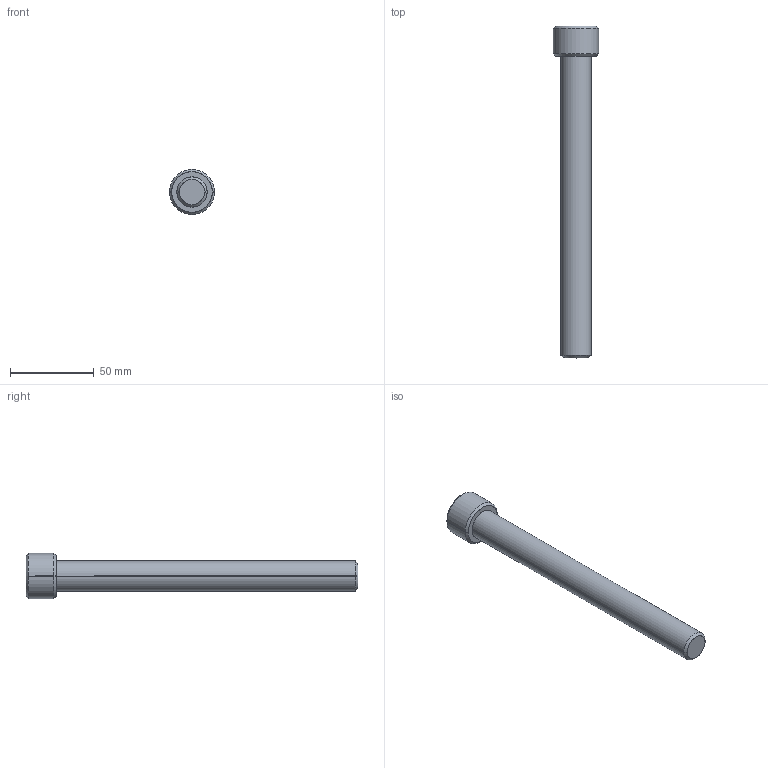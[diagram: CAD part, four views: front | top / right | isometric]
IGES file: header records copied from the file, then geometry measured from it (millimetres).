
Start section: SolidWorks IGES file using analytic representation for surfaces
Global section: file name: D:\Cleonir_arquivos\MT_15_07\Parafuso Allen Cabeça Cilindrica\CLM18180.igs; native system: SolidWorks 2013; preprocessor: SolidWorks 2013; author: Cleonir; date: 130730.130304; units: millimetre
Bounding box: 27 x 198 x 27 mm (x, y, z)
Surface area: 13225.4 mm2 (no closed solid volume)
Topology: 0 solids, 0 shells, 286 faces, 2528 edges, 2528 vertices
Faces by surface type: bspline 268, revolution 18
